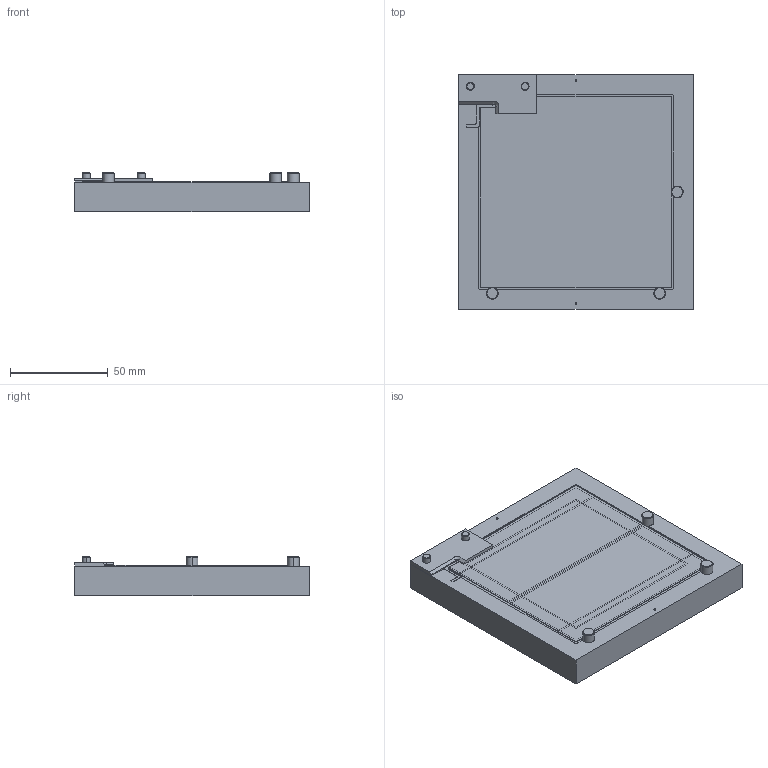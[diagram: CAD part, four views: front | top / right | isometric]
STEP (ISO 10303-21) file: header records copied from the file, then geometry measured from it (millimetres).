
FILE_DESCRIPTION(('CATIA V5 STEP Exchange'),'2;1');
FILE_NAME('D:\CATIA\ATLAS\Atlas_Maarten\atlas_upgrade_maarten\Ass.Module\STP\Outil_Collage_Languette_HV.stp','2010-09-02T14:24:18+00:00',('none'),('none'),'CATIA Version 5 Release 18 SP 4 (IN-10)','CATIA V5 STEP AP203','none');
FILE_SCHEMA(('CONFIG_CONTROL_DESIGN'));
Length unit declared in the file: millimetre
Products named in the file (2): Outil_Collage_Languette_HV; Detecteur_HV_plat
Assembly tree (10 placements, depth 3):
  Outil_Collage_Languette_HV
    #56  x3
    #282  x2
    #495
    #2278
    Detecteur_HV_plat
      #2959
      #3657
Bounding box: 120 x 120 x 20 mm (x, y, z)
Volume: 219741.3 mm3; surface area: 61112.4 mm2
Topology: 9 solids, 9 shells, 163 faces, 396 edges, 254 vertices
Faces by surface type: plane 92, cylinder 47, cone 24
Entity records: 4217 total; most frequent: CARTESIAN_POINT 744, ORIENTED_EDGE 704, DIRECTION 608, EDGE_CURVE 352, VECTOR 251, LINE 251, VERTEX_POINT 230, AXIS2_PLACEMENT_3D 227
